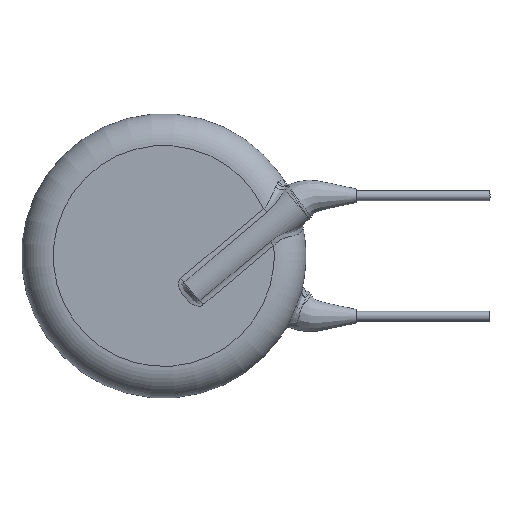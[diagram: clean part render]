
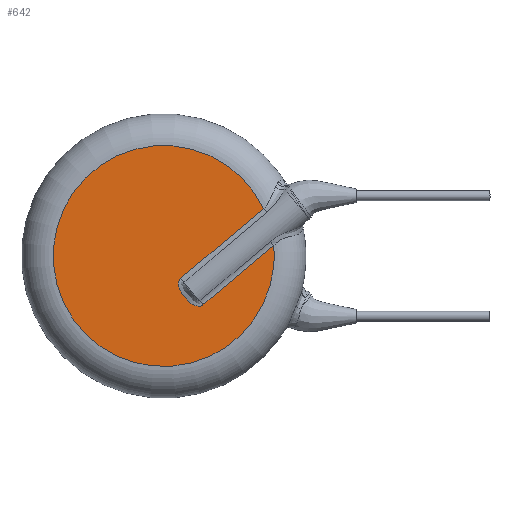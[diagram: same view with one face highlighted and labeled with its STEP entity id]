
A CAD part, front view. The second image highlights one B-rep face of the part: STEP entity #642.
In plain terms, the highlighted planar face has unit normal (0, -1, 0).
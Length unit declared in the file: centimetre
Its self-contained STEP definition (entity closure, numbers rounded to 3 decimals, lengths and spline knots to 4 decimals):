
#22=LINE('',#954,#30);
#24=LINE('',#1230,#32);
#30=VECTOR('',#754,0.5513);
#32=VECTOR('',#772,0.6459);
#45=B_SPLINE_CURVE_WITH_KNOTS('',3,(#925,#926,#927,#928,#929,#930,#931,
#932,#933,#934,#935),.UNSPECIFIED.,.F.,.F.,(4,1,1,1,1,1,1,1,4),(0.0403,
0.0771,0.1139,0.1323,0.1875,
0.2244,0.2612,0.2704,0.298),
 .UNSPECIFIED.);
#133=FACE_OUTER_BOUND('',#179,.T.);
#179=EDGE_LOOP('',(#455,#456,#457,#458));
#226=CIRCLE('',#694,0.66);
#252=VERTEX_POINT('',#922);
#253=VERTEX_POINT('',#924);
#255=VERTEX_POINT('',#950);
#269=VERTEX_POINT('',#1215);
#308=EDGE_CURVE('',#252,#253,#45,.T.);
#313=EDGE_CURVE('',#253,#255,#22,.T.);
#336=EDGE_CURVE('',#269,#252,#24,.T.);
#345=EDGE_CURVE('',#255,#269,#226,.T.);
#455=ORIENTED_EDGE('',*,*,#313,.F.);
#456=ORIENTED_EDGE('',*,*,#308,.F.);
#457=ORIENTED_EDGE('',*,*,#336,.F.);
#458=ORIENTED_EDGE('',*,*,#345,.F.);
#581=PLANE('',#695);
#642=ADVANCED_FACE('',(#133),#581,.F.);
#694=AXIS2_PLACEMENT_3D('',#1277,#777,#778);
#695=AXIS2_PLACEMENT_3D('',#1278,#779,#780);
#754=DIRECTION('',(0.766,0.,0.643));
#772=DIRECTION('',(-0.766,0.,-0.643));
#777=DIRECTION('center_axis',(0.,1.,0.));
#778=DIRECTION('ref_axis',(-1.,0.,0.));
#779=DIRECTION('center_axis',(0.,1.,0.));
#780=DIRECTION('ref_axis',(1.,0.,0.));
#922=CARTESIAN_POINT('',(0.1018,-0.115,-0.1329));
#924=CARTESIAN_POINT('',(0.2346,-0.115,-0.2912));
#925=CARTESIAN_POINT('Ctrl Pts',(0.1018,-0.115,-0.1329));
#926=CARTESIAN_POINT('Ctrl Pts',(0.0924,-0.115,-0.1408));
#927=CARTESIAN_POINT('Ctrl Pts',(0.0837,-0.115,-0.1659));
#928=CARTESIAN_POINT('Ctrl Pts',(0.0929,-0.115,-0.1961));
#929=CARTESIAN_POINT('Ctrl Pts',(0.1106,-0.115,-0.2283));
#930=CARTESIAN_POINT('Ctrl Pts',(0.1338,-0.115,-0.2572));
#931=CARTESIAN_POINT('Ctrl Pts',(0.1653,-0.115,-0.2863));
#932=CARTESIAN_POINT('Ctrl Pts',(0.1907,-0.115,-0.2989));
#933=CARTESIAN_POINT('Ctrl Pts',(0.2153,-0.115,-0.301));
#934=CARTESIAN_POINT('Ctrl Pts',(0.2276,-0.115,-0.2971));
#935=CARTESIAN_POINT('Ctrl Pts',(0.2346,-0.115,-0.2912));
#950=CARTESIAN_POINT('',(0.657,-0.115,0.0632));
#954=CARTESIAN_POINT('',(0.8606,-0.115,0.2341));
#1215=CARTESIAN_POINT('',(0.5966,-0.115,0.2822));
#1230=CARTESIAN_POINT('',(0.7278,-0.115,0.3924));
#1277=CARTESIAN_POINT('Origin',(0.,-0.115,0.));
#1278=CARTESIAN_POINT('Origin',(0.,-0.115,0.));
